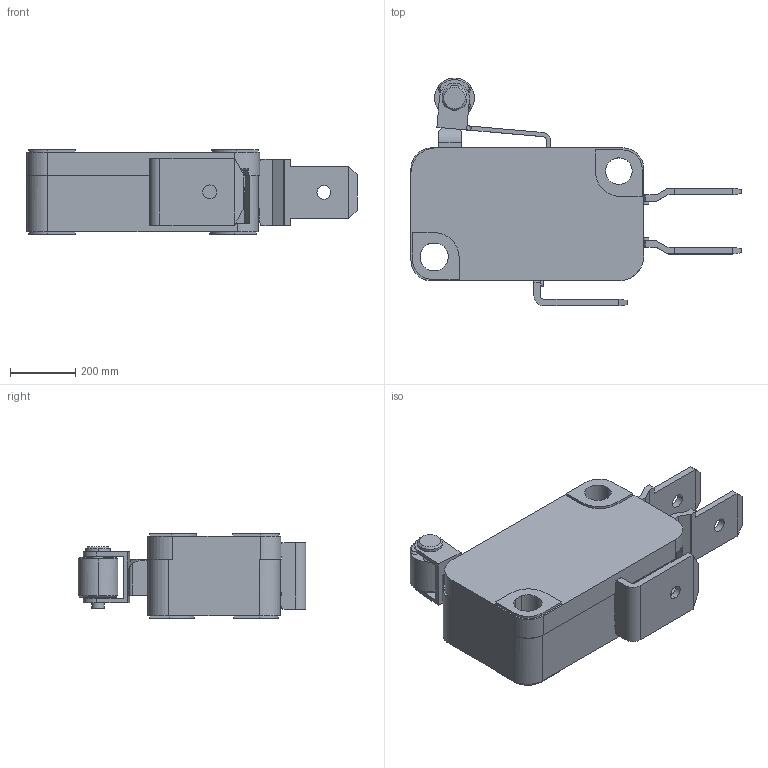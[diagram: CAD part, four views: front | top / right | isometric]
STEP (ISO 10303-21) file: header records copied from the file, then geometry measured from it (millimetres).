
FILE_DESCRIPTION((''),'2;1');
FILE_NAME('ASM0004_ASM','2016-06-02T',('Administrator'),(''),'PRO/ENGINEER BY PARAMETRIC TECHNOLOGY CORPORATION, 2012360','PRO/ENGINEER BY PARAMETRIC TECHNOLOGY CORPORATION, 2012360','');
FILE_SCHEMA(('CONFIG_CONTROL_DESIGN'));
Length unit declared in the file: inch
Products named in the file (1): ASM0004_ASM
Bounding box: 1008.38 x 695.86 x 259.08 mm (x, y, z)
Volume: 64499248.6 mm3; surface area: 2853644.6 mm2
Topology: 1 solids, 5 shells, 523 faces, 1475 edges, 963 vertices
Faces by surface type: plane 394, cylinder 110, cone 15, torus 4
Entity records: 16940 total; most frequent: CARTESIAN_POINT 3137, ORIENTED_EDGE 2950, DIRECTION 2760, EDGE_CURVE 1475, VECTOR 1164, LINE 1164, VERTEX_POINT 963, AXIS2_PLACEMENT_3D 798
